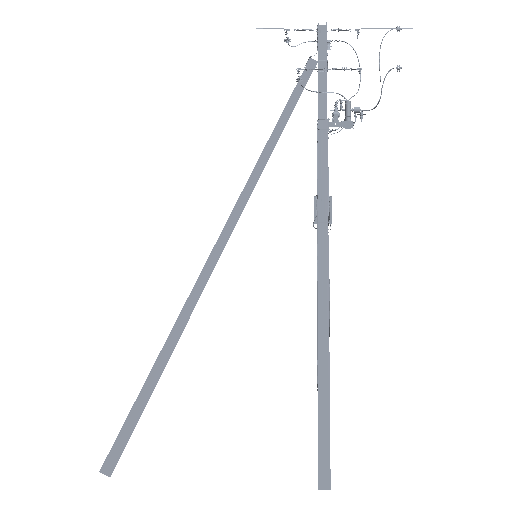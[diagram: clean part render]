
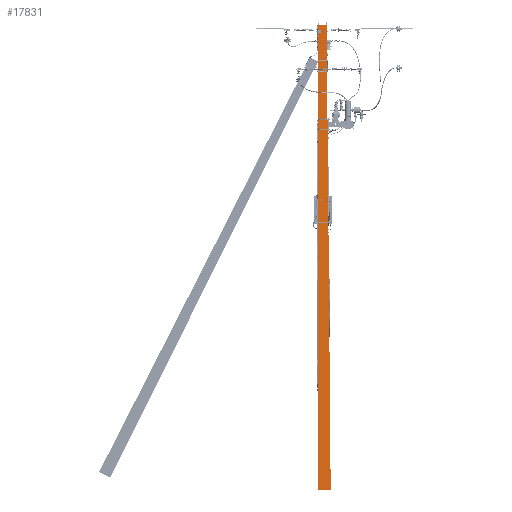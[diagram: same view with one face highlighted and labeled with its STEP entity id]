
A CAD part, left-side view. The second image highlights one B-rep face of the part: STEP entity #17831.
In plain terms, the highlighted free-form (B-spline) face has degree [3, 3] with [4, 4] control points.
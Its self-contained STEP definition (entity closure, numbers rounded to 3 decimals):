
#17831=ADVANCED_FACE('',(#85387),#85389,.T.);
#85387=FACE_BOUND('',#85388,.T.);
#85388=EDGE_LOOP('',(#232011,#232012,#232013,#232014));
#85389=B_SPLINE_SURFACE_WITH_KNOTS('',3,3,(
(#85390,#85391,#85392,#85393),
(#85394,#85395,#85396,#85397),
(#85398,#85399,#85400,#85401),
(#85402,#85403,#85404,#85405)),
.UNSPECIFIED.,.F.,.F.,.F.,
(4,4),
(4,4),
(0.,1.),
(0.,1.),
.UNSPECIFIED.);
#85390=CARTESIAN_POINT('',(1340.715,700.215,0.));
#85391=CARTESIAN_POINT('',(1340.715,700.215,3500.));
#85392=CARTESIAN_POINT('',(1340.715,700.215,7000.));
#85393=CARTESIAN_POINT('',(1340.715,700.215,10500.));
#85394=CARTESIAN_POINT('',(1344.048,606.882,0.));
#85395=CARTESIAN_POINT('',(1344.048,616.882,3500.));
#85396=CARTESIAN_POINT('',(1344.048,626.882,7000.));
#85397=CARTESIAN_POINT('',(1344.048,636.882,10500.));
#85398=CARTESIAN_POINT('',(1347.382,513.548,0.));
#85399=CARTESIAN_POINT('',(1347.382,533.548,3500.));
#85400=CARTESIAN_POINT('',(1347.382,553.548,7000.));
#85401=CARTESIAN_POINT('',(1347.382,573.548,10500.));
#85402=CARTESIAN_POINT('',(1350.715,420.215,0.));
#85403=CARTESIAN_POINT('',(1350.715,450.215,3500.));
#85404=CARTESIAN_POINT('',(1350.715,480.215,7000.));
#85405=CARTESIAN_POINT('',(1350.715,510.215,10500.));
#232011=ORIENTED_EDGE('',*,*,#286647,.T.);
#232012=ORIENTED_EDGE('',*,*,#286650,.T.);
#232013=ORIENTED_EDGE('',*,*,#286641,.F.);
#232014=ORIENTED_EDGE('',*,*,#286648,.F.);
#286641=EDGE_CURVE('',#313444,#313446,#313447,.T.);
#286647=EDGE_CURVE('',#313452,#313456,#313458,.T.);
#286648=EDGE_CURVE('',#313452,#313444,#313459,.T.);
#286650=EDGE_CURVE('',#313456,#313446,#313461,.T.);
#313444=VERTEX_POINT('',#354535);
#313446=VERTEX_POINT('',#354539);
#313447=LINE('',#354540,#354541);
#313452=VERTEX_POINT('',#354551);
#313456=VERTEX_POINT('',#354559);
#313458=LINE('',#354563,#354564);
#313459=LINE('',#354566,#354567);
#313461=LINE('',#354572,#354573);
#354535=CARTESIAN_POINT('',(1340.715,700.215,10500.));
#354539=CARTESIAN_POINT('',(1350.715,510.215,10500.));
#354540=CARTESIAN_POINT('',(1340.715,700.215,10500.));
#354541=VECTOR('',#354542,1.);
#354542=DIRECTION('',(0.053,-0.999,0.));
#354551=CARTESIAN_POINT('',(1340.715,700.215,0.));
#354559=CARTESIAN_POINT('',(1350.715,420.215,0.));
#354563=CARTESIAN_POINT('',(1340.715,700.215,0.));
#354564=VECTOR('',#354565,1.);
#354565=DIRECTION('',(0.036,-0.999,0.));
#354566=CARTESIAN_POINT('',(1340.715,700.215,0.));
#354567=VECTOR('',#354568,1.);
#354568=DIRECTION('',(0.,0.,1.));
#354572=CARTESIAN_POINT('',(1350.715,420.215,0.));
#354573=VECTOR('',#354574,1.);
#354574=DIRECTION('',(0.,0.009,1.));
